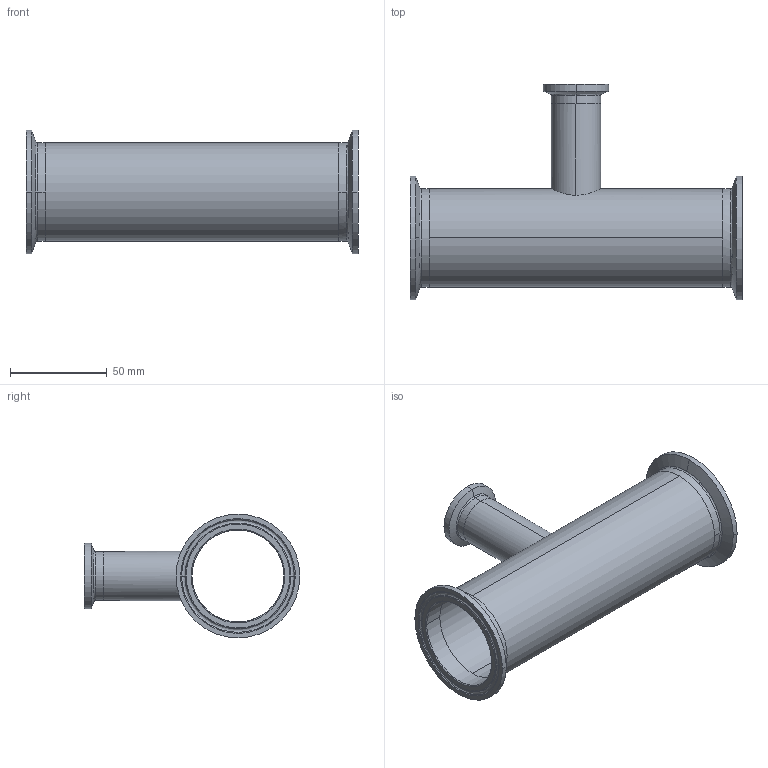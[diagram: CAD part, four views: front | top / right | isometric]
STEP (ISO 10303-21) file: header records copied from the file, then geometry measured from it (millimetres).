
FILE_DESCRIPTION (( 'STEP AP214' ), '1' );
FILE_NAME ('TEG7R6L2.0x1.0-..Type A.STEP', '2016-05-24T06:46:35', ( 'eran' ), ( '' ), 'SwSTEP 2.0', 'SolidWorks 2016', '' );
FILE_SCHEMA (( 'AUTOMOTIVE_DESIGN' ));
Length unit declared in the file: millimetre
Products named in the file (1): TEG7R6L2.0x1.0-..Type A
Bounding box: 171.4 x 111.35 x 63.91 mm (x, y, z)
Volume: 60108.8 mm3; surface area: 67684.3 mm2
Topology: 4 solids, 4 shells, 84 faces, 200 edges, 128 vertices
Faces by surface type: cylinder 28, bspline 28, cone 16, plane 12
Entity records: 4163 total; most frequent: CARTESIAN_POINT 2161, DIRECTION 430, ORIENTED_EDGE 400, EDGE_CURVE 200, AXIS2_PLACEMENT_3D 193, CIRCLE 136, VERTEX_POINT 128, EDGE_LOOP 98
